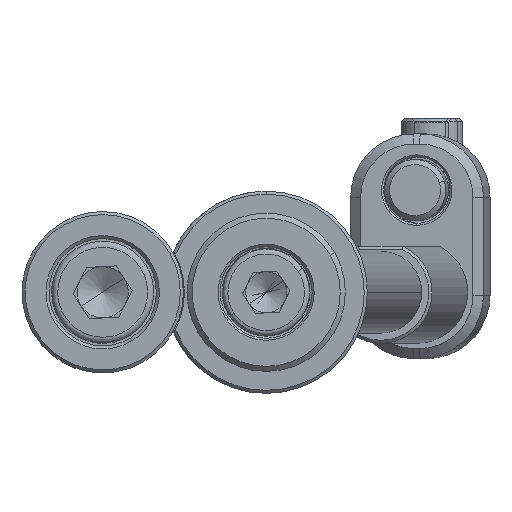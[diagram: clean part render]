
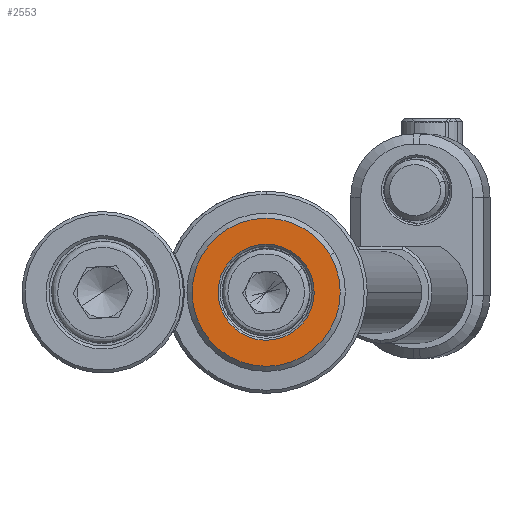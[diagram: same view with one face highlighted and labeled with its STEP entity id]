
A CAD part, front view. The second image highlights one B-rep face of the part: STEP entity #2553.
In plain terms, the highlighted planar face has unit normal (0, -1, 0).
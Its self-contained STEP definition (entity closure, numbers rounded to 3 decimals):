
#128 = PLANE ( 'NONE',  #7984 ) ;
#652 = CARTESIAN_POINT ( 'NONE',  ( 0., -4., 0. ) ) ;
#725 = DIRECTION ( 'NONE',  ( 0., -1., 0. ) ) ;
#1098 = EDGE_LOOP ( 'NONE', ( #2332, #6422 ) ) ;
#1239 = CIRCLE ( 'NONE', #8563, 7.25 ) ;
#2091 = CIRCLE ( 'NONE', #6438, 4.7 ) ;
#2102 = CARTESIAN_POINT ( 'NONE',  ( 2.261, -4., -3.891 ) ) ;
#2332 = ORIENTED_EDGE ( 'NONE', *, *, #13050, .T. ) ;
#2553 = ADVANCED_FACE ( 'NONE', ( #12207, #8894 ), #128, .F. ) ;
#2817 = DIRECTION ( 'NONE',  ( -0.865, 0., -0.503 ) ) ;
#4229 = CARTESIAN_POINT ( 'NONE',  ( 0., -4., 0. ) ) ;
#4585 = EDGE_CURVE ( 'NONE', #5419, #5291, #6384, .T. ) ;
#4947 = CARTESIAN_POINT ( 'NONE',  ( 0., -4., 0. ) ) ;
#5052 = VERTEX_POINT ( 'NONE', #10465 ) ;
#5291 = VERTEX_POINT ( 'NONE', #7658 ) ;
#5419 = VERTEX_POINT ( 'NONE', #8153 ) ;
#5985 = DIRECTION ( 'NONE',  ( -0.865, 0., -0.503 ) ) ;
#6088 = DIRECTION ( 'NONE',  ( -0.865, 0., -0.503 ) ) ;
#6384 = CIRCLE ( 'NONE', #10255, 4.7 ) ;
#6396 = EDGE_CURVE ( 'NONE', #13408, #5052, #1239, .T. ) ;
#6422 = ORIENTED_EDGE ( 'NONE', *, *, #4585, .T. ) ;
#6438 = AXIS2_PLACEMENT_3D ( 'NONE', #4229, #8609, #6088 ) ;
#6801 = ORIENTED_EDGE ( 'NONE', *, *, #6396, .T. ) ;
#7163 = EDGE_LOOP ( 'NONE', ( #6801, #11103 ) ) ;
#7642 = CARTESIAN_POINT ( 'NONE',  ( 0., -4., 0. ) ) ;
#7658 = CARTESIAN_POINT ( 'NONE',  ( 4.063, -4., 2.362 ) ) ;
#7984 = AXIS2_PLACEMENT_3D ( 'NONE', #2102, #12069, #9840 ) ;
#8037 = CIRCLE ( 'NONE', #11713, 7.25 ) ;
#8153 = CARTESIAN_POINT ( 'NONE',  ( -4.063, -4., -2.362 ) ) ;
#8563 = AXIS2_PLACEMENT_3D ( 'NONE', #4947, #725, #2817 ) ;
#8609 = DIRECTION ( 'NONE',  ( 0., 1., 0. ) ) ;
#8894 = FACE_OUTER_BOUND ( 'NONE', #7163, .T. ) ;
#9474 = EDGE_CURVE ( 'NONE', #5052, #13408, #8037, .T. ) ;
#9840 = DIRECTION ( 'NONE',  ( -0.865, 0., -0.503 ) ) ;
#10203 = DIRECTION ( 'NONE',  ( 0., 1., 0. ) ) ;
#10255 = AXIS2_PLACEMENT_3D ( 'NONE', #652, #10203, #5985 ) ;
#10465 = CARTESIAN_POINT ( 'NONE',  ( 6.268, -4., 3.643 ) ) ;
#10863 = DIRECTION ( 'NONE',  ( -0.865, 0., -0.503 ) ) ;
#11103 = ORIENTED_EDGE ( 'NONE', *, *, #9474, .T. ) ;
#11713 = AXIS2_PLACEMENT_3D ( 'NONE', #7642, #12024, #10863 ) ;
#12024 = DIRECTION ( 'NONE',  ( 0., -1., 0. ) ) ;
#12031 = CARTESIAN_POINT ( 'NONE',  ( -6.268, -4., -3.643 ) ) ;
#12069 = DIRECTION ( 'NONE',  ( 0., 1., 0. ) ) ;
#12207 = FACE_BOUND ( 'NONE', #1098, .T. ) ;
#13050 = EDGE_CURVE ( 'NONE', #5291, #5419, #2091, .T. ) ;
#13408 = VERTEX_POINT ( 'NONE', #12031 ) ;
